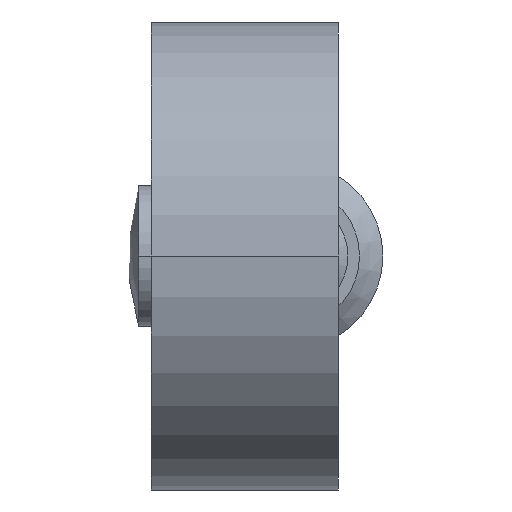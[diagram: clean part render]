
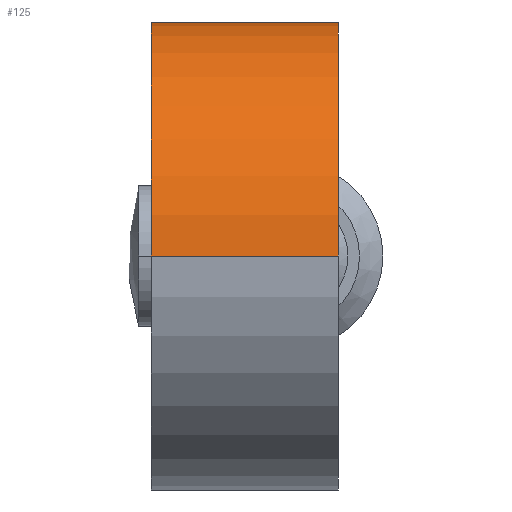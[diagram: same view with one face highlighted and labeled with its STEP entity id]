
A CAD part, left-side view. The second image highlights one B-rep face of the part: STEP entity #125.
In plain terms, the highlighted cylindrical face has radius 10 mm (diameter 20 mm), a partial arc.
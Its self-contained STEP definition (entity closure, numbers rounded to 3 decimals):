
#125=ADVANCED_FACE('',(#175),#176,.T.);
#175=FACE_OUTER_BOUND('',#277,.T.);
#176=CYLINDRICAL_SURFACE('',#278,10.0);
#277=EDGE_LOOP('',(#389,#390,#391,#392,#393,#394,#395));
#278=AXIS2_PLACEMENT_3D('',#396,#397,#398);
#389=ORIENTED_EDGE('',*,*,#724,.F.);
#390=ORIENTED_EDGE('',*,*,#725,.T.);
#391=ORIENTED_EDGE('',*,*,#726,.F.);
#392=ORIENTED_EDGE('',*,*,#727,.F.);
#393=ORIENTED_EDGE('',*,*,#728,.F.);
#394=ORIENTED_EDGE('',*,*,#729,.F.);
#395=ORIENTED_EDGE('',*,*,#730,.F.);
#396=CARTESIAN_POINT('',(0.0,4.0,0.0));
#397=DIRECTION('',(0.0,-1.0,0.0));
#398=DIRECTION('',(1.0,0.0,0.0));
#724=EDGE_CURVE('',#832,#833,#834,.T.);
#725=EDGE_CURVE('',#832,#835,#836,.T.);
#726=EDGE_CURVE('',#837,#835,#838,.T.);
#727=EDGE_CURVE('',#839,#837,#840,.T.);
#728=EDGE_CURVE('',#841,#839,#842,.T.);
#729=EDGE_CURVE('',#843,#841,#844,.T.);
#730=EDGE_CURVE('',#833,#843,#845,.T.);
#832=VERTEX_POINT('',#1001);
#833=VERTEX_POINT('',#1002);
#834=LINE('',#1003,#1004);
#835=VERTEX_POINT('',#1005);
#836=CIRCLE('',#1006,10.0);
#837=VERTEX_POINT('',#1007);
#838=LINE('',#1008,#1009);
#839=VERTEX_POINT('',#1010);
#840=CIRCLE('',#1011,10.0);
#841=VERTEX_POINT('',#1012);
#842=LINE('',#1013,#1014);
#843=VERTEX_POINT('',#1015);
#844=B_SPLINE_CURVE_WITH_KNOTS('',3,(#1016,#1017,#1018,#1019,#1020,#1021,#1022,#1023,#1024,#1025,#1026,#1027),.UNSPECIFIED.,.F.,.F.,(4,2,2,2,2,4),(0.32,0.332,0.373,0.415,0.456,0.498),.UNSPECIFIED.);
#845=B_SPLINE_CURVE_WITH_KNOTS('',3,(#1028,#1029,#1030,#1031,#1032,#1033,#1034,#1035,#1036,#1037),.UNSPECIFIED.,.F.,.F.,(4,2,2,2,4),(0.166,0.207,0.249,0.29,0.32),.UNSPECIFIED.);
#1001=CARTESIAN_POINT('',(10.0,8.0,0.0));
#1002=CARTESIAN_POINT('',(10.0,3.2,0.));
#1003=CARTESIAN_POINT('',(10.0,4.0,0.));
#1004=VECTOR('',#1234,1.0);
#1005=CARTESIAN_POINT('',(-10.0,8.0,0.));
#1006=AXIS2_PLACEMENT_3D('',#1235,#1236,#1237);
#1007=CARTESIAN_POINT('',(-10.0,0.0,0.));
#1008=CARTESIAN_POINT('',(-10.0,4.0,0.));
#1009=VECTOR('',#1238,1.0);
#1010=CARTESIAN_POINT('',(10.0,0.0,0.0));
#1011=AXIS2_PLACEMENT_3D('',#1239,#1240,#1241);
#1012=CARTESIAN_POINT('',(10.0,1.,0.));
#1013=CARTESIAN_POINT('',(10.0,4.0,0.));
#1014=VECTOR('',#1242,1.0);
#1015=CARTESIAN_POINT('',(9.94,2.217,1.094));
#1016=CARTESIAN_POINT('',(9.94,2.217,1.094));
#1017=CARTESIAN_POINT('',(9.94,2.178,1.098));
#1018=CARTESIAN_POINT('',(9.939,2.139,1.1));
#1019=CARTESIAN_POINT('',(9.939,1.962,1.1));
#1020=CARTESIAN_POINT('',(9.942,1.814,1.072));
#1021=CARTESIAN_POINT('',(9.954,1.543,0.96));
#1022=CARTESIAN_POINT('',(9.962,1.42,0.875));
#1023=CARTESIAN_POINT('',(9.977,1.225,0.68));
#1024=CARTESIAN_POINT('',(9.985,1.14,0.557));
#1025=CARTESIAN_POINT('',(9.997,1.028,0.286));
#1026=CARTESIAN_POINT('',(10.0,1.,0.138));
#1027=CARTESIAN_POINT('',(10.0,1.,0.));
#1028=CARTESIAN_POINT('',(10.0,3.2,0.));
#1029=CARTESIAN_POINT('',(10.0,3.2,0.138));
#1030=CARTESIAN_POINT('',(9.997,3.172,0.286));
#1031=CARTESIAN_POINT('',(9.985,3.06,0.557));
#1032=CARTESIAN_POINT('',(9.977,2.975,0.68));
#1033=CARTESIAN_POINT('',(9.962,2.78,0.875));
#1034=CARTESIAN_POINT('',(9.954,2.657,0.96));
#1035=CARTESIAN_POINT('',(9.944,2.423,1.057));
#1036=CARTESIAN_POINT('',(9.941,2.319,1.083));
#1037=CARTESIAN_POINT('',(9.94,2.217,1.094));
#1234=DIRECTION('',(0.0,-1.0,0.0));
#1235=CARTESIAN_POINT('',(0.0,8.0,0.0));
#1236=DIRECTION('',(0.0,-1.0,0.0));
#1237=DIRECTION('',(1.0,0.0,0.0));
#1238=DIRECTION('',(0.0,1.0,0.0));
#1239=CARTESIAN_POINT('',(0.0,0.0,0.0));
#1240=DIRECTION('',(0.0,-1.0,0.0));
#1241=DIRECTION('',(1.0,0.0,0.0));
#1242=DIRECTION('',(0.0,-1.0,0.0));
